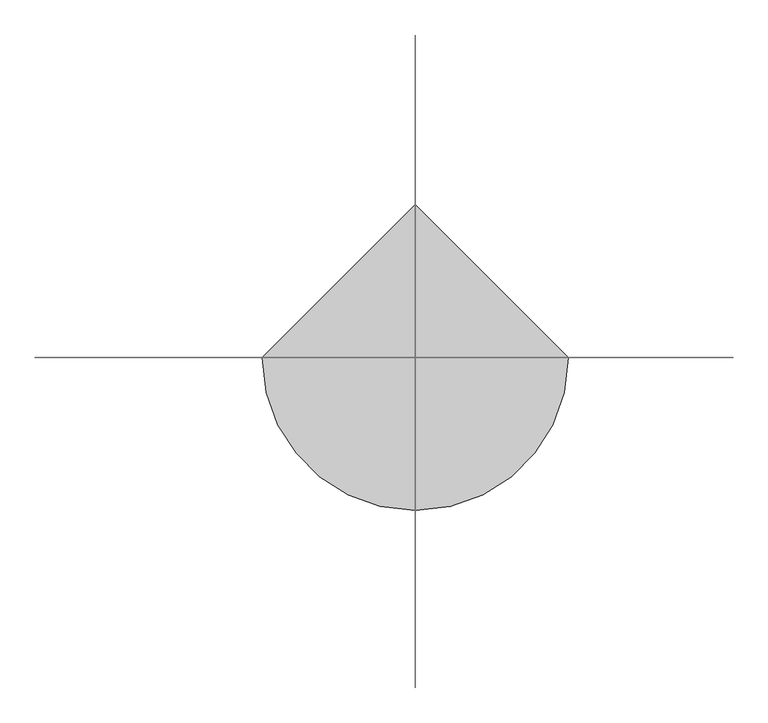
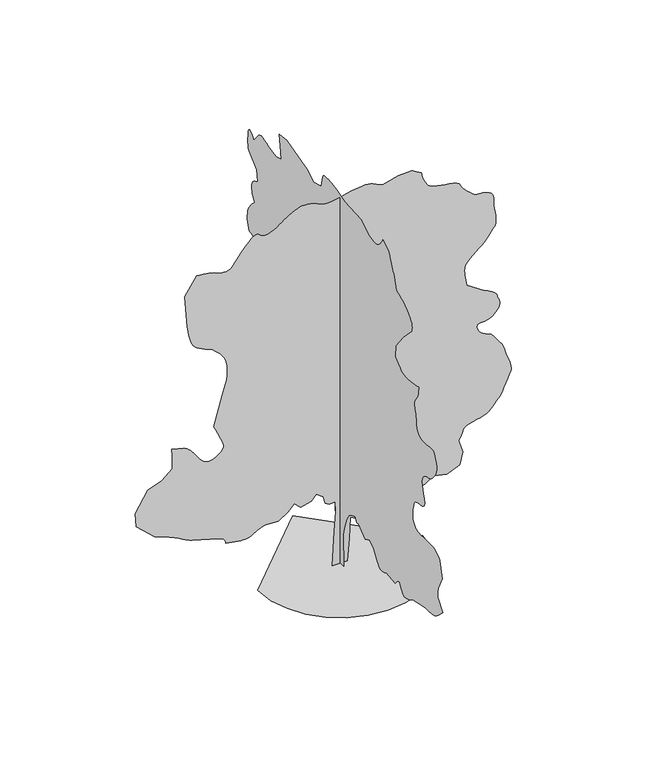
"""IFC4 building model written with IfcOpenShell, lengths in millimetres: geographic element geometry, Vegetacion PAEMFE : CEIBO."""

from ifc_helpers import new_model, si_unit, origin, place, context, project, spatial, triangles, source, transform, mapped, element, save


def geographic_element_bc3e9e51(model_context):
    return source(origin(), model_context, "Body", "Tessellation", [
        triangles([(-0.0023182, 225.0441669, 0.0117593), (-0.0023182, -207.253574, 0.0117593), (-0.0023182, -169.6619732, 1071.3576433), (-0.0023182, -244.8441393, 1390.8831253), (-0.0023182, -357.6192324, 1691.6118622), (-0.0023182, -489.1867104, 1898.3615971), (-0.0023182, -639.5510788, 1992.3405991), (-0.0023182, -827.5064667, 2067.5227833), (-0.0023182, -902.6886509, 1898.3615971), (-0.0023182, -1034.258745, 1935.9526165), (-0.0023182, -1184.6231134, 1785.5882481), (-0.0023182, -1391.3727757, 1654.0208427), (-0.0023182, -1635.71353, 1766.7940464), (-0.0023182, -1861.2600826, 1616.429678), (-0.0023182, -2011.6269218, 1353.2921059), (-0.0023182, -2048.0123463, 1301.3416431), (-0.0023182, -2085.2180695, 1251.8599251), (-0.0023182, -2124.0694771, 1207.3105368), (-0.0023182, -2165.3871586, 1170.1569906), (-0.0023182, -2209.9912674, 1142.8679586), (-0.0023182, -2258.7073345, 1127.909642), (-0.0023182, -2312.3530426, 1127.7430098), (-0.0023182, -2363.8087681, 1136.8965935), (-0.0023182, -2406.3868378, 1148.019025), (-0.0023182, -2441.5663765, 1160.7872137), (-0.0023182, -2470.8294159, 1174.8705111), (-0.0023182, -2495.6523193, 1189.9408121), (-0.0023182, -2517.5166824, 1205.6673231), (-0.0023182, -2537.8994499, 1221.7219391), (-0.0023182, -3026.5835747, 1165.3366453), (-0.0023182, -3074.7605759, 1220.9538174), (-0.0023182, -3121.9222321, 1271.9693081), (-0.0023182, -3167.1302284, 1313.7817268), (-0.0023182, -3209.3959625, 1341.7843781), (-0.0023182, -3247.7032173, 1351.3728916), (-0.0023182, -3281.0625183, 1337.9484203), (-0.0023182, -3308.5102615, 1296.9041233), (-0.0023182, -3336.0885201, 1237.8860687), (-0.0023182, -3370.228878, 1176.8965502), (-0.0023182, -3410.5935654, 1118.8679701), (-0.0023182, -3456.9215515, 1068.727426), (-0.0023182, -3508.7965828, 1031.409791), (-0.0023182, -3565.9579193, 1011.8473223), (-0.0023182, -3628.0410484, 1014.9697334), (-0.0023182, -3690.2805634, 1033.2743574), (-0.0023182, -3748.5877602, 1055.521764), (-0.0023182, -3803.6137619, 1081.0581413), (-0.0023182, -3856.0094009, 1109.2221926), (-0.0023182, -3906.426091, 1139.3627947), (-0.0023182, -3955.5143738, 1170.8158167), (-0.0023182, -4003.9518242, 1202.9277374), (-0.0023182, -4680.5913368, 1334.4952881), (-0.0023182, -4764.9922897, 1334.6593769), (-0.0023182, -4848.2215118, 1335.8103241), (-0.0023182, -4929.1590134, 1338.935424), (-0.0023182, -5006.6327728, 1345.0160122), (-0.0023182, -5079.5230911, 1355.0447605), (-0.0023182, -5146.6585281, 1370.0030045), (-0.0023182, -5206.866481, 1390.8831253), (-0.0023182, -5264.8873581, 1421.0759045), (-0.0023182, -5325.8766586, 1462.11744), (-0.0023182, -5389.3402267, 1512.2033363), (-0.0023182, -5454.7827438, 1569.5209133), (-0.0023182, -5521.6838928, 1632.26563), (-0.0023182, -5589.5745163, 1698.6249516), (-0.0023182, -5657.959877, 1766.7940464), (-0.0023182, -5394.8352402, 2067.5227833), (-0.0023182, -5386.9967651, 2123.8533566), (-0.0023182, -5380.4599548, 2179.8558975), (-0.0023182, -5376.5799591, 2235.2020832), (-0.0023182, -5376.6322815, 2289.5614105), (-0.0023182, -5381.9447479, 2342.6055565), (-0.0023182, -5393.8457657, 2394.0066341), (-0.0023182, -5413.6114197, 2443.4337044), (-0.0023182, -5620.3813568, 2875.724469), (-0.0023182, -5488.7934586, 3401.9999039), (-0.0023182, -5478.5068771, 3416.5309937), (-0.0023182, -5447.8035187, 3453.7444199), (-0.0023182, -5397.0746384, 3504.082917), (-0.0023182, -5326.6062653, 3558.0671219), (-0.0023182, -5236.7361694, 3606.1138985), (-0.0023182, -5127.8044464, 3638.718013), (-0.0023182, -5000.1221237, 3646.3483612), (-0.0023182, -4857.8566795, 3640.4368034), (-0.0023182, -4711.346727, 3638.1192123), (-0.0023182, -4570.0707573, 3638.4578545), (-0.0023182, -4443.5866173, 3640.4368034), (-0.0023182, -4341.4512817, 3643.0671661), (-0.0023182, -4273.1702751, 3645.3588867), (-0.0023182, -4248.3005722, 3646.3483612), (-0.0023182, -4233.71716, 3656.2701393), (-0.0023182, -4196.1392212, 3684.2649422), (-0.0023182, -4144.7330566, 3727.7282776), (-0.0023182, -4088.7172897, 3784.0044937), (-0.0023182, -4037.3372864, 3850.4626465), (-0.0023182, -3999.7331863, 3924.4988251), (-0.0023182, -3985.1497742, 4003.4570869), (-0.0023182, -3987.9103615, 4082.3633171), (-0.0023182, -3995.5665802, 4158.3267036), (-0.0023182, -4007.3373734, 4231.8161133), (-0.0023182, -4022.4155228, 4303.3265739), (-0.0023182, -4039.9673584, 4373.3522415), (-0.0023182, -4059.1342117, 4442.3887253), (-0.0023182, -4079.1341537, 4510.9301811), (-0.0023182, -4095.5662903, 4531.008316), (-0.0023182, -4113.9776665, 4550.5655525), (-0.0023182, -4136.347522, 4569.1333145), (-0.0023182, -4164.6286446, 4586.2427353), (-0.0023182, -4200.7744034, 4601.3467552), (-0.0023182, -4246.8160698, 4614.0291206), (-0.0023182, -4304.6805611, 4623.7166107), (-0.0023182, -4374.6544876, 4629.6278778), (-0.0023182, -4450.2272003, 4636.5289101), (-0.0023182, -4523.169841, 4652.3102142), (-0.0023182, -4585.2529701, 4684.8622971), (-0.0023182, -4628.2738907, 4742.0756653), (-0.0023182, -4643.977002, 4831.8411163), (-0.0023182, -4624.211348, 4962.0232864), (-0.0023182, -4583.7167267, 5109.2108139), (-0.0023182, -4546.5030098, 5244.236293), (-0.0023182, -4518.1698555, 5366.4497635), (-0.0023182, -4504.3157593, 5475.1477798), (-0.0023182, -4510.5136368, 5569.7309601), (-0.0023182, -4542.3364037, 5649.52202), (-0.0023182, -4605.4092979, 5713.844838), (-0.0023182, -4682.7269623, 5758.8973206), (-0.0023182, -4754.4714203, 5786.5270294), (-0.0023182, -4821.9193382, 5804.6003448), (-0.0023182, -4886.4244125, 5821.0324814), (-0.0023182, -4949.2630188, 5843.7148178), (-0.0023182, -5011.7888535, 5880.5637314), (-0.0023182, -5075.3041626, 5939.3915359), (-0.0023182, -5140.0176544, 6014.2613846), (-0.0023182, -5201.7627228, 6094.0530258), (-0.0023182, -5255.3042221, 6179.0786499), (-0.0023182, -5295.3558472, 6269.729512), (-0.0023182, -5316.6841965, 6366.2660614), (-0.0023182, -5314.0018021, 6469.0783905), (-0.0023182, -5282.0491013, 6578.4531097), (-0.0023182, -5243.4811066, 6681.9165619), (-0.0023182, -5217.3873505, 6766.2910629), (-0.0023182, -5193.2731247, 6830.9528137), (-0.0023182, -5160.6169785, 6875.2233673), (-0.0023182, -5108.8980423, 6898.4783432), (-0.0023182, -5027.5698669, 6900.0148773), (-0.0023182, -4906.1377441, 6879.1818466), (-0.0023182, -4762.0756073, 6856.1611588), (-0.0023182, -4623.6122566, 6851.5515564), (-0.0023182, -4496.2950279, 6865.3797821), (-0.0023182, -4385.7741577, 6897.5929321), (-0.0023182, -4297.6234337, 6948.2183304), (-0.0023182, -4237.3890289, 7017.280394), (-0.0023182, -4210.6964722, 7104.7279633), (-0.0023182, -4201.555751, 7198.1135422), (-0.0023182, -4190.4360809, 7285.5611115), (-0.0023182, -4177.6496521, 7368.0868881), (-0.0023182, -4163.5871384, 7446.6547668), (-0.0023182, -4148.508989, 7522.2798019), (-0.0023182, -4132.7797165, 7595.9253067), (-0.0023182, -4116.7382538, 7668.581337), (-0.0023182, -4101.1133354, 7720.976976), (-0.0023182, -4088.4571312, 7773.5290009), (-0.0023182, -4081.7121941, 7826.4199585), (-0.0023182, -4083.8475288, 7879.7789108), (-0.0023182, -4097.8318497, 7933.8151474), (-0.0023182, -4126.581839, 7988.6588928), (-0.0023182, -4173.1182426, 8044.4921127), (-0.0023182, -4222.8579391, 8113.0076981), (-0.0023182, -4260.4620392, 8198.9193146), (-0.0023182, -4287.5191086, 8292.0700241), (-0.0023182, -4305.7223579, 8382.2784714), (-0.0023182, -4316.6859329, 8459.3092346), (-0.0023182, -4322.0504311, 8513.0332809), (-0.0023182, -4323.4826111, 8533.1896088), (-0.0023182, -4295.7482574, 8526.9917313), (-0.0023182, -4221.3472755, 8511.2624588), (-0.0023182, -4113.3788658, 8490.2730423), (-0.0023182, -3985.0457108, 8468.3197311), (-0.0023182, -3849.4728813, 8449.6220352), (-0.0023182, -3719.8377708, 8438.5023651), (-0.0023182, -3609.2389984, 8439.2052292), (-0.0023182, -3515.8798714, 8455.4809799), (-0.0023182, -3428.4058502, 8486.548851), (-0.0023182, -3345.8800735, 8529.9601547), (-0.0023182, -3267.3124855, 8583.215625), (-0.0023182, -3191.6877411, 8643.8921539), (-0.0023182, -3118.0419456, 8709.465477), (-0.0023182, -3045.3856247, 8777.5380661), (-0.0023182, -3064.1876747, 9172.2511826), (-0.0023182, -3477.67668, 9698.5260361), (-0.0023182, -3947.5718353, 10187.1967896), (-0.0023182, -3954.9155731, 10247.796579), (-0.0023182, -3957.9883507, 10309.5672272), (-0.0023182, -3952.4936279, 10373.6295959), (-0.0023182, -3934.1863152, 10441.1289642), (-0.0023182, -3898.7957428, 10513.2385162), (-0.0023182, -3842.0250801, 10591.1023682), (-0.0023182, -3759.6033669, 10675.8948669), (-0.0023182, -3662.9368835, 10757.3526855), (-0.0023182, -3566.2962708, 10826.0240753), (-0.0023182, -3469.6297874, 10883.99263), (-0.0023182, -3372.9633041, 10933.4198456), (-0.0023182, -3276.2968208, 10976.4404755), (-0.0023182, -3179.6303375, 11015.1904358), (-0.0023182, -3082.9638542, 11051.7789001), (-0.0023182, -3054.7606339, 11148.1858063), (-0.0023182, -3026.3754478, 11242.9242096), (-0.0023182, -2997.651329, 11334.3825806), (-0.0023182, -2968.4327637, 11420.9191589), (-0.0023182, -2938.5889458, 11500.8666046), (-0.0023182, -2907.885878, 11572.5854828), (-0.0023182, -2876.2194969, 11634.4607758), (-0.0023182, -2841.0890831, 11701.9078217), (-0.0023182, -2802.365284, 11785.1376251), (-0.0023182, -2763.2769722, 11874.642627), (-0.0023182, -2727.1832451, 11960.8396912), (-0.0023182, -2697.313266, 12034.1991669), (-0.0023182, -2676.9749725, 12085.2146576), (-0.0023182, -2669.4748489, 12104.3553497), (-0.0023182, -2349.9468235, 12292.2985291), (-0.0023182, -2333.5613411, 12259.902832), (-0.0023182, -2315.5327904, 12226.5432404), (-0.0023182, -2294.2150509, 12191.2046997), (-0.0023182, -2267.9676704, 12152.8977356), (-0.0023182, -2235.1448193, 12110.6317108), (-0.0023182, -2194.1006676, 12063.470636), (-0.0023182, -2143.1944725, 12010.3715515), (-0.0023182, -2081.876849, 11964.3813354), (-0.0023182, -2011.681715, 11937.1678802), (-0.0023182, -1934.0880501, 11925.5278931), (-0.0023182, -1850.5751244, 11926.4127228), (-0.0023182, -1762.6248241, 11936.6737244), (-0.0023182, -1671.7161289, 11953.1576019), (-0.0023182, -1579.3281635, 11972.7668701), (-0.0023182, -1165.8262957, 12254.6938477), (-0.0023182, -263.6402122, 12311.099707), (-0.0023182, -147.0856987, 12343.1570526), (-0.0023182, -32.0108868, 12374.2249237), (-0.0023182, 80.1045582, 12403.3138458), (-0.0023182, 187.7817248, 12429.4587616), (-0.0023182, 289.5412112, 12451.6469421), (-0.0023182, 383.9030205, 12468.9121674), (-0.0023182, 469.3846487, 12480.2661255), (-0.0023182, 553.663189, 12488.9121094), (-0.0023182, 641.8895988, 12496.5941986), (-0.0023182, 728.7983202, 12499.9800385), (-0.0023182, 809.1314981, 12495.812851), (-0.0023182, 877.6262272, 12480.8137665), (-0.0023182, 929.0271595, 12451.6469421), (-0.0023182, 958.0713896, 12405.0579254), (-0.0023182, 1052.0477755, 12029.1738922), (-0.0023182, 1465.5497887, 11916.3877533), (-0.0023182, 1841.4605644, 12141.9332886), (-0.0023182, 2311.3504875, 12254.6938477), (-0.0023182, 2931.6100113, 12442.6626068), (-0.0023182, 3345.0987259, 12386.2823273), (-0.0023182, 3307.520787, 12029.1738922), (-0.0023182, 3232.3384575, 11615.6584351), (-0.0023182, 3533.0671944, 11521.6746368), (-0.0023182, 3833.7959312, 11578.0549164), (-0.0023182, 3950.0716827, 11621.7522491), (-0.0023182, 4063.222625, 11661.6219086), (-0.0023182, 4170.123658, 11693.9652832), (-0.0023182, 4267.6755524, 11714.9546997), (-0.0023182, 4352.7273376, 11720.8148071), (-0.0023182, 4422.1544952, 11707.7679291), (-0.0023182, 4472.8313438, 11672.0387146), (-0.0023182, 4754.7580307, 11333.7314575), (-0.0023182, 4818.8203995, 11408.6280487), (-0.0023182, 4880.5910477, 11473.8356964), (-0.0023182, 4937.7265137, 11519.6433655), (-0.0023182, 4987.9868179, 11536.3621124), (-0.0023182, 5029.0284988, 11514.2785767), (-0.0023182, 5058.5598358, 11443.7061401), (-0.0023182, 5074.2885269, 11314.9302795), (-0.0023182, 5079.0545151, 11171.9087769), (-0.0023182, 5077.9086548, 11061.4411011), (-0.0023182, 5071.8410019, 10978.081073), (-0.0023182, 5061.7887085, 10916.4406494), (-0.0023182, 5048.820314, 10871.0759766), (-0.0023182, 5033.846228, 10836.5455261), (-0.0023182, 5017.9088287, 10807.456604), (-0.0023182, 4585.6177734, 10450.3214264), (-0.0023182, 4548.0136734, 10055.6350525), (-0.0023182, 4608.1437241, 10031.1295715), (-0.0023182, 4666.4247597, 10004.6718842), (-0.0023182, 4721.1121193, 9974.2551361), (-0.0023182, 4770.3829491, 9937.927121), (-0.0023182, 4812.4141045, 9893.7077271), (-0.0023182, 4845.4088928, 9839.6191681), (-0.0023182, 4867.5441696, 9773.6824951), (-0.0023182, 4875.981736, 9701.2084305), (-0.0023182, 4870.6172379, 9628.708786), (-0.0023182, 4853.7421051, 9556.2085602), (-0.0023182, 4827.6486397, 9483.7089157), (-0.0023182, 4794.6538513, 9411.2086899), (-0.0023182, 4757.0756218, 9338.7090454), (-0.0023182, 4717.1800919, 9266.2094009), (-0.0023182, 4777.336013, 9205.7665787), (-0.0023182, 4836.0338837, 9145.1673706), (-0.0023182, 4891.7630402, 9084.2303925), (-0.0023182, 4943.0651413, 9022.7980957), (-0.0023182, 4988.4292328, 8960.7146759), (-0.0023182, 5026.3984268, 8897.8243286), (-0.0023182, 5055.4867676, 8833.9183456), (-0.0023182, 5076.3721207, 8771.67854), (-0.0023182, 5091.3462067, 8713.3716339), (-0.0023182, 5101.3717575, 8658.3453415), (-0.0023182, 5107.4399918, 8605.9497025), (-0.0023182, 5110.564801, 8555.5330124), (-0.0023182, 5111.7106613, 8506.4447296), (-0.0023182, 5111.892627, 8458.0075699), (-0.0023182, 4999.106488, 8138.4764923), (-0.0023182, 4946.7887512, 8130.0909576), (-0.0023182, 4894.6018204, 8119.7526352), (-0.0023182, 4842.7788208, 8105.4296722), (-0.0023182, 4791.424688, 8085.2216034), (-0.0023182, 4740.7475487, 8057.0965759), (-0.0023182, 4690.8779182, 8019.1279633), (-0.0023182, 4641.9977623, 7969.3100739), (-0.0023182, 4597.49263, 7910.1956589), (-0.0023182, 4559.9146912, 7846.1332901), (-0.0023182, 4528.0657631, 7777.9822174), (-0.0023182, 4500.8261467, 7706.5243698), (-0.0023182, 4477.0502724, 7632.5916733), (-0.0023182, 4455.5658279, 7557.0189606), (-0.0023182, 4435.253405, 7480.6393204), (-0.0023182, 4391.2430099, 7420.1964981), (-0.0023182, 4349.0554687, 7359.5978714), (-0.0023182, 4310.4618942, 7298.6603119), (-0.0023182, 4277.3107201, 7237.2280151), (-0.0023182, 4251.399511, 7175.1445953), (-0.0023182, 4234.5243782, 7112.2280869), (-0.0023182, 4228.4828865, 7048.3482651), (-0.0023182, 4247.2849365, 6540.8490097), (-0.0023182, 4291.2953316, 6536.4219543), (-0.0023182, 4333.4825821, 6529.5206314), (-0.0023182, 4372.0764473, 6517.671936), (-0.0023182, 4405.2273308, 6498.4533417), (-0.0023182, 4431.1388306, 6469.3388397), (-0.0023182, 4448.0136726, 6427.9326462), (-0.0023182, 4454.0292938, 6371.7087524), (-0.0023182, 4452.3886963, 6306.7086502), (-0.0023182, 4447.8052551, 6240.7452347), (-0.0023182, 4440.7219666, 6173.9487305), (-0.0023182, 4431.6855995, 6106.4743607), (-0.0023182, 4421.1647301, 6038.5319962), (-0.0023182, 4409.6543861, 5970.2506989), (-0.0023182, 4397.649305, 5901.8135971), (-0.0023182, 4378.8472549, 5525.9028214), (-0.0023182, 4735.9821419, 5544.7045807), (-0.0023182, 5130.6688065, 5619.8866196), (-0.0023182, 5214.6793762, 5591.4494019), (-0.0023182, 5295.2256226, 5561.5273911), (-0.0023182, 5368.8978699, 5528.6369568), (-0.0023182, 5432.178891, 5491.3194672), (-0.0023182, 5481.6578476, 5448.0901291), (-0.0023182, 5513.871579, 5397.4653122), (-0.0023182, 5525.3819229, 5337.9340622), (-0.0023182, 5522.1007278, 5262.5438965), (-0.0023182, 5512.8815231, 5167.4136566), (-0.0023182, 5498.7672684, 5055.8512802), (-0.0023182, 5480.6683731, 4931.1379623), (-0.0023182, 5459.6266342, 4796.5548981), (-0.0023182, 5436.6059464, 4655.3832825), (-0.0023182, 5412.6213638, 4510.9301811), (-0.0023182, 5243.4549454, 4059.8373665), (-0.0023182, 5151.0594223, 4008.0143669), (-0.0023182, 5060.148111, 3959.2905968), (-0.0023182, 4972.2058044, 3916.8167358), (-0.0023182, 4888.6899719, 3883.7178841), (-0.0023182, 4811.112149, 3863.1188507), (-0.0023182, 4740.9039345, 3858.1447357), (-0.0023182, 4679.5757011, 3871.8947685), (-0.0023182, 4153.3005569, 4097.4414665), (-0.0023182, 3627.0254128, 3928.2750481), (-0.0023182, 3251.114637, 3665.1504112), (-0.0023182, 2875.2038612, 3101.271167), (-0.0023182, 2838.8235237, 3045.2295296), (-0.0023182, 2801.6362587, 2991.1409706), (-0.0023182, 2762.7819443, 2940.9850204), (-0.0023182, 2721.4539436, 2896.7662079), (-0.0023182, 2676.8447479, 2860.4381927), (-0.0023182, 2628.1468483, 2833.979924), (-0.0023182, 2574.488205, 2819.3444801), (-0.0023182, 2520.9490311, 2814.4747192), (-0.0023182, 2470.7018074, 2814.8392319), (-0.0023182, 2420.12379, 2818.8497429), (-0.0023182, 2365.6003738, 2824.8133324), (-0.0023182, 2303.5144833, 2831.1152733), (-0.0023182, 2230.2490425, 2836.1152588), (-0.0023182, 2142.1893013, 2838.1465302), (-0.0023182, 2047.7180328, 2831.0112099), (-0.0023182, 1957.1921631, 2811.0632996), (-0.0023182, 1869.9553368, 2780.438134), (-0.0023182, 1785.3487278, 2741.2457588), (-0.0023182, 1702.7133648, 2695.6726685), (-0.0023182, 1621.3931831, 2645.803038), (-0.0023182, 1540.7319729, 2593.7980728), (-0.0023182, 1427.9586239, 2274.2723728), (-0.0023182, 1108.435758, 1917.1584148), (-0.0023182, 1064.323843, 1869.3745583), (-0.0023182, 1013.3056635, 1822.5778507), (-0.0023182, 956.5349281, 1776.6012966), (-0.0023182, 895.1626568, 1731.2837139), (-0.0023182, 830.3371805, 1686.4608685), (-0.0023182, 763.2097372, 1641.9635845), (-0.0023182, 694.9338175, 1597.6328602), (-0.0023182, 582.1605412, 1992.3405991), (-0.0023182, 394.2025008, 2255.4781712), (-0.0023182, 319.0229327, 2086.3169849), (-0.0023182, 262.6350047, 1823.1794128), (-0.0023182, 243.8399673, 1353.2921059), (-0.0023182, 206.2483665, 695.4467949), (232.8879105, 0.0005961, 0.0297656), (-255.795433, 0.0005961, 0.0297656), (-180.61403, 0.000529, 1127.7612499), (-143.0226836, 0.0004895, 1785.6065609), (-161.8182296, 0.0004694, 2123.9263172), (-349.7754888, 0.0004705, 2105.1321156), (-481.3429667, 0.0004662, 2180.3141544), (-537.7282969, 0.0004515, 2424.6549088), (-763.277393, 0.0004425, 2575.0192772), (-913.6417614, 0.0004525, 2405.858091), (-1251.9589016, 0.0004583, 2311.8817051), (-1458.7112526, 0.0004471, 2499.8372383), (-1665.4608421, 0.0004593, 2293.0848873), (-1966.189579, 0.0004705, 2105.1321156), (-2417.2851551, 0.0004694, 2123.9263172), (-2642.8343239, 0.0004751, 2029.9473152), (-2691.2717743, 0.0004773, 1993.9473324), (-2740.3600571, 0.0004794, 1959.4240036), (-2790.7767471, 0.0004812, 1927.8615406), (-2843.1726768, 0.0004827, 1900.7365974), (-2898.1983879, 0.0004841, 1879.5309151), (-2956.4797142, 0.0004848, 1865.7210022), (-3018.7450996, 0.0004852, 1860.7887451), (-3088.1199348, 0.0004852, 1862.9813438), (-3166.375042, 0.0004848, 1869.1168705), (-3252.0259186, 0.0004841, 1878.5439114), (-3343.588353, 0.0004834, 1890.5985535), (-3439.5778427, 0.0004827, 1904.627203), (-3538.5619171, 0.0004816, 1919.9708885), (-3639.0046234, 0.0004809, 1935.9709293), (-3643.6400963, 0.0004784, 1976.1375183), (-3652.1035332, 0.0004759, 2015.6452812), (-3668.0929642, 0.0004737, 2053.8404789), (-3695.4369347, 0.0004715, 2090.0618145), (-3737.9107956, 0.0004694, 2123.6527874), (-3799.2648994, 0.0004676, 2153.9548622), (-3883.3272102, 0.0004662, 2180.3141544), (-4710.3310913, 0.0004515, 2424.6549088), (-4777.8569115, 0.0004504, 2446.0820892), (-4849.9661728, 0.0004486, 2476.3840187), (-4924.366864, 0.0004464, 2512.933532), (-4998.7942978, 0.0004439, 2553.0999756), (-5070.9032684, 0.0004414, 2594.2535683), (-5138.4293793, 0.0004392, 2633.7717957), (-5199.028006, 0.0004371, 2669.0062729), (-5264.184494, 0.0004349, 2702.8603111), (-5345.1214142, 0.0004328, 2739.6830635), (-5439.2098572, 0.0004303, 2778.9797928), (-5543.8191696, 0.0004281, 2820.2298912), (-5656.3192795, 0.0004256, 2862.9900719), (-5774.0795334, 0.0004227, 2906.7141472), (-5894.4698593, 0.0004202, 2950.9326691), (-6477.1249924, 0.0003876, 3496.010154), (-6514.7029312, 0.0003607, 3947.1029686), (-6120.015976, 0.0003226, 4586.1383812), (-5668.9231613, 0.0003126, 4755.3047997), (-5330.5903244, 0.0002957, 5037.2314865), (-5330.5903244, 0.0002702, 5469.5225418), (-5349.3926651, 0.0002566, 5695.0692398), (-4954.6795486, 0.0002623, 5601.1110214), (-4910.2526093, 0.0002641, 5572.4389343), (-4864.9661293, 0.0002659, 5540.9809708), (-4818.065213, 0.0002681, 5503.9495102), (-4768.6903198, 0.0002706, 5458.5069351), (-4716.0342316, 0.0002742, 5401.9185287), (-4659.2632782, 0.0002785, 5331.3455109), (-4597.5708229, 0.0002835, 5243.9758438), (-4535.0446976, 0.0002889, 5152.2052826), (-4474.8105835, 0.0002939, 5071.2677811), (-4414.6023399, 0.0002979, 5002.8306793), (-4352.0765053, 0.0003011, 4948.5078323), (-4284.9410683, 0.0003036, 4909.99216), (-4210.904599, 0.0003047, 4888.8986801), (-4127.6756676, 0.0003047, 4886.8674088), (-4036.6602928, 0.0003036, 4907.7004395), (-3944.993795, 0.0003011, 4949.8879807), (-3858.9002129, 0.0002975, 5007.2054123), (-3784.6553261, 0.0002936, 5073.4031158), (-3728.4837547, 0.0002896, 5142.2314728), (-3696.6348267, 0.0002857, 5207.4397018), (-3695.3846123, 0.0002824, 5262.7781845), (-3717.5201797, 0.0002788, 5322.6216248), (-3750.5149681, 0.0002742, 5403.1684525), (-3792.5461235, 0.0002681, 5500.9805054), (-3841.7907921, 0.0002616, 5612.6213654), (-3896.4781517, 0.0002544, 5734.5999664), (-3954.7853485, 0.0002465, 5863.4804718), (-4014.9153992, 0.0002386, 5995.7979767), (-3751.7648918, 0.0001816, 6954.3900467), (-3715.7752281, 0.0001751, 7062.8793549), (-3681.2441963, 0.0001687, 7169.9106125), (-3649.681588, 0.0001626, 7273.9728653), (-3622.5463257, 0.0001565, 7373.5819016), (-3601.3484917, 0.0001511, 7467.2796707), (-3587.5464272, 0.0001457, 7553.5813797), (-3582.5984734, 0.0001414, 7631.0295593), (-3583.8745583, 0.0001367, 7706.5761108), (-3588.0931961, 0.0001321, 7786.7584259), (-3595.9316711, 0.000127, 7869.2324615), (-3608.0411064, 0.000122, 7951.7059158), (-3625.0723343, 0.0001173, 8031.8620697), (-3647.702639, 0.0001127, 8107.4347824), (-3676.5825623, 0.0001087, 8176.0805923), (-3713.7439568, 0.0001048, 8239.9865753), (-3759.7597527, 0.0001012, 8302.9036652), (-3813.1968979, 9.76e-05, 8364.9865036), (-3872.5458916, 9.37e-05, 8426.4188004), (-3936.3219406, 9.01e-05, 8487.3301987), (-4003.0664131, 8.65e-05, 8547.9549866), (-4071.2956787, 8.29e-05, 8608.3978088), (-4179.5765694, 8.04e-05, 8652.7724258), (-4285.0451317, 7.75e-05, 8697.6423615), (-4384.9407784, 7.5e-05, 8743.5279327), (-4476.4773422, 7.21e-05, 8790.8715546), (-4556.7895912, 6.93e-05, 8840.1941254), (-4623.1695511, 6.6e-05, 8891.9648026), (-4672.7528618, 6.28e-05, 8946.7044846), (-4711.7632713, 5.85e-05, 9019.6988663), (-4747.8308372, 5.28e-05, 9118.6573608), (-4780.2526955, 4.59e-05, 9232.7457458), (-4808.4297546, 3.88e-05, 9351.1048004), (-4831.65886, 3.19e-05, 9462.9014648), (-4849.3150497, 2.66e-05, 9557.2503571), (-4860.6954597, 2.26e-05, 9623.3439972), (-4935.8777893, -4.02e-05, 10675.8948669), (-4559.9667229, -7.5e-05, 11258.55), (-4459.5240166, -7.43e-05, 11246.3356293), (-4360.5658127, -7.36e-05, 11233.2887512), (-4264.5504524, -7.25e-05, 11218.6012756), (-4172.988018, -7.14e-05, 11201.466275), (-4087.3371414, -7.03e-05, 11181.0233368), (-4009.1081955, -6.89e-05, 11156.4666962), (-3939.7333603, -6.71e-05, 11126.9871002), (-3869.1865036, -6.53e-05, 11098.4981415), (-3789.7855362, -6.42e-05, 11078.5505219), (-3706.4525414, -6.35e-05, 11068.7848389), (-3624.0828598, -6.39e-05, 11070.8672699), (-3547.6506065, -6.46e-05, 11086.4407379), (-3482.0517036, -6.64e-05, 11117.1179352), (-3432.2341049, -6.93e-05, 11164.5917816), (-3131.505368, -9.29e-05, 11559.2781555), (-3051.193119, -9.83e-05, 11651.2318451), (-2972.1566643, -0.0001037, 11739.0695068), (-2895.7767334, -0.0001084, 11818.7053436), (-2823.32883, -0.0001123, 11885.9965851), (-2756.1413612, -0.0001156, 11936.8562714), (-2695.5424438, -0.0001173, 11967.1427948), (-2642.8343239, -0.0001177, 11972.7936127), (-2600.4177269, -0.0001166, 11958.6526154), (-2565.8942528, -0.0001152, 11935.6319275), (-2533.3447861, -0.0001138, 11908.6789215), (-2496.8502113, -0.0001123, 11882.71539), (-2450.4908318, -0.0001109, 11862.6375458), (-2388.3529095, -0.0001105, 11853.4450836), (-2304.5119514, -0.0001109, 11860.0074738), (-2204.3401588, -0.0001127, 11888.523175), (-2101.5409103, -0.0001152, 11936.0749237), (-2002.6842991, -0.0001188, 11994.173703), (-1914.3511734, -0.0001224, 12054.2258514), (-1843.1142426, -0.0001256, 12107.714447), (-1795.5518841, -0.0001278, 12146.0481537), (-1778.2341911, -0.0001288, 12160.7356293), (-1757.0285088, -0.0001296, 12174.3289856), (-1700.6405262, -0.0001317, 12209.6163666), (-1619.9245228, -0.0001346, 12258.3912964), (-1525.7267841, -0.0001378, 12312.4286957), (-1428.9012989, -0.0001407, 12363.4953461), (-1340.2947887, -0.0001432, 12403.391748), (-1270.7557194, -0.0001443, 12423.8858459), (-1204.7792959, -0.0001446, 12428.4437073), (-1122.693536, -0.0001446, 12425.735733), (-1029.0999029, -0.0001439, 12415.501474), (-928.600078, -0.0001428, 12397.3502563), (-825.8007568, -0.0001414, 12370.996051), (-725.3009319, -0.0001392, 12336.1005066), (-631.7072989, -0.0001367, 12292.3241089), (-532.1397572, -0.0001346, 12256.5948944), (-412.8456943, -0.0001339, 12243.5480164), (-277.1115375, -0.0001339, 12249.4069611), (-128.2274021, -0.0001353, 12270.3975403), (30.5207842, -0.0001371, 12302.7141724), (195.8447319, -0.0001396, 12342.6105743), (364.4577321, -0.0001421, 12386.2823273), (480.845577, -0.0001432, 12402.0639221), (594.7698732, -0.0001439, 12415.8921478), (703.7619123, -0.0001446, 12425.735733), (805.3581093, -0.0001446, 12429.693631), (897.0871033, -0.0001446, 12425.735733), (976.4906141, -0.0001435, 12411.9330872), (1041.0972811, -0.0001421, 12386.2823273), (1095.2899035, -0.0001403, 12356.2562531), (1145.5398159, -0.0001389, 12330.1880768), (1192.5006849, -0.0001374, 12307.3766785), (1236.8339527, -0.0001364, 12287.2197693), (1279.1906696, -0.0001353, 12269.017392), (1320.2348213, -0.0001342, 12252.1416779), (1360.6201469, -0.0001331, 12235.9182495), (1849.3042717, -0.000141, 12367.5067291), (2281.6031754, -0.0001421, 12386.2823273), (2582.3319122, -0.0001321, 12217.1414886), (2586.6598457, -0.0001296, 12172.6372284), (2592.7978432, -0.0001267, 12126.9853638), (2602.5504456, -0.0001238, 12079.0429413), (2617.7300423, -0.0001209, 12027.6367767), (2640.1519295, -0.0001173, 11971.647171), (2671.5843132, -0.0001138, 11909.8765228), (2713.9017883, -0.0001098, 11841.2307129), (2756.4279716, -0.0001059, 11778.3671082), (2791.7141899, -0.0001034, 11731.9606384), (2826.3495758, -0.0001012, 11697.716217), (2866.8965195, -9.94e-05, 11671.3620117), (2919.9432816, -9.83e-05, 11648.6006104), (2992.0525429, -9.69e-05, 11625.2159912), (3089.8128548, -9.51e-05, 11596.8828369), (3210.3072441, -9.37e-05, 11569.5903168), (3340.3333191, -9.22e-05, 11548.888092), (3471.036097, -9.12e-05, 11529.7997223), (3593.5100166, -8.97e-05, 11507.4557373), (3698.8742249, -8.79e-05, 11476.8831848), (3778.2751923, -8.54e-05, 11433.1323669), (3822.8323563, -8.18e-05, 11371.3361389), (3855.7751129, -7.75e-05, 11299.3823914), (3904.4988831, -7.32e-05, 11228.419281), (3966.3477242, -6.89e-05, 11158.2898407), (4038.7435959, -6.5e-05, 11088.7847809), (4119.0299744, -6.06e-05, 11019.8006195), (4204.5506264, -5.67e-05, 10951.1548096), (4292.7275116, -5.24e-05, 10882.6392242), (4416.7376747, -5.17e-05, 10869.9306976), (4535.6437889, -5.1e-05, 10853.4456573), (4644.3676758, -4.95e-05, 10829.3831726), (4737.7788345, -4.74e-05, 10793.9934723), (4810.8255386, -4.41e-05, 10743.4721375), (4858.4037392, -4.02e-05, 10674.0449799), (4875.3829353, -3.48e-05, 10581.909906), (4876.4764732, -2.91e-05, 10485.9727386), (4879.5492508, -2.4e-05, 10405.7904236), (4884.2629166, -2.01e-05, 10338.7852112), (4890.3044083, -1.69e-05, 10282.3014496), (4897.3097946, -1.4e-05, 10233.6811615), (4904.966304, -1.11e-05, 10190.34776), (4912.9867447, -9e-06, 10149.6188507), (4928.7160172, -3.2e-06, 10053.2910095), (4942.1274078, 2.5e-06, 9958.9165375), (4950.9553574, 7.9e-06, 9868.4999634), (4952.8825653, 1.29e-05, 9784.0202362), (4945.5911499, 1.76e-05, 9707.406308), (4926.7888092, 2.15e-05, 9640.6615448), (4894.1849854, 2.48e-05, 9585.7660583), (4852.5965355, 2.8e-05, 9533.1099701), (4807.7007294, 3.16e-05, 9472.8752747), (4758.5601242, 3.55e-05, 9406.7298935), (4704.1332138, 3.95e-05, 9336.3132614), (4643.4822647, 4.38e-05, 9263.2665573), (4575.5916412, 4.84e-05, 9189.2303787), (4499.4718689, 5.28e-05, 9115.870903), (4411.0865662, 5.74e-05, 9040.1941269), (4312.5190361, 6.21e-05, 8959.2566254), (4211.9463959, 6.71e-05, 8874.6995773), (4117.6495354, 7.21e-05, 8788.1891602), (4037.8061531, 7.75e-05, 8701.3142303), (3980.6448166, 8.25e-05, 8615.7932877), (3954.3946747, 8.76e-05, 8533.21577), (3950.1760368, 9.22e-05, 8451.5492432), (3952.8843018, 9.73e-05, 8367.9293472), (3961.3218681, 0.0001023, 8282.6688538), (3974.342585, 0.0001077, 8196.0805344), (3990.8529144, 0.0001127, 8108.5289017), (4009.6290939, 0.0001181, 8020.2994034), (4029.5770042, 0.0001234, 7931.7582962), (4593.4562485, 0.0001457, 7555.8475204), (4615.3052055, 0.0001464, 7546.0818375), (4671.7113556, 0.0001479, 7519.2328949), (4748.7944412, 0.0001504, 7478.8940781), (4832.8047203, 0.0001532, 7428.7122574), (4909.9142578, 0.0001568, 7372.2540756), (4966.293956, 0.0001601, 7313.1914017), (4988.1693649, 0.0001636, 7255.1187836), (4999.8878357, 0.0001669, 7200.248877), (5026.7367783, 0.0001701, 7145.4051315), (5056.2157928, 0.0001737, 7085.9523651), (5075.825061, 0.000178, 7017.280394), (5073.0909256, 0.0001827, 6934.8063583), (5035.5129868, 0.0001888, 6833.9473984), (4950.5652649, 0.0001963, 6710.0415894), (4833.4038116, 0.0002024, 6604.5986069), (4712.9611633, 0.0002056, 6550.1455353), (4597.4664688, 0.0002071, 6528.5573181), (4495.0968452, 0.0002074, 6521.76064), (4414.1076027, 0.0002081, 6511.6821854), (4362.7014381, 0.0002099, 6480.2242218), (4349.1075005, 0.0002142, 6409.3128525), (4368.6650276, 0.0002193, 6320.8752274), (4408.9512314, 0.0002236, 6247.2297226), (4466.4773712, 0.0002275, 6185.9014893), (4537.8311554, 0.0002304, 6134.4435837), (4619.5500046, 0.0002329, 6090.3811569), (4708.1434341, 0.0002354, 6051.2661026), (4800.2006058, 0.0002376, 6014.599736), (4892.205455, 0.0002444, 5898.2196304), (4980.4349533, 0.0002512, 5784.2876312), (5061.0858444, 0.0002577, 5675.3035858), (5130.4083572, 0.0002638, 5573.7150192), (5184.6009796, 0.0002695, 5481.9706192), (5219.8871979, 0.0002742, 5402.5696518), (5232.4916611, 0.0002778, 5337.9602234), (5247.8564209, 0.0002824, 5260.6945908), (5286.2157074, 0.0002892, 5150.2263336), (5336.0591766, 0.0002968, 5019.3668793), (5385.9288071, 0.000305, 4880.9555603), (5424.2880936, 0.0003129, 4747.8049667), (5439.6266922, 0.0003201, 4632.7271072), (5420.4598389, 0.0003251, 4548.5604424), (5375.9026749, 0.0003298, 4465.4355743), (5324.1319977, 0.0003366, 4353.0398186), (5267.0750153, 0.0003445, 4223.5349327), (5206.7362564, 0.0003524, 4089.1341248), (5145.0958328, 0.0003599, 3961.94683), (5084.1065323, 0.0003664, 3854.1603859), (5025.7473038, 0.0003711, 3777.9365501), (4969.1588974, 0.0003747, 3717.5460503), (4911.2159225, 0.0003786, 3651.5826347), (4850.6693275, 0.0003825, 3583.614109), (4786.1901237, 0.0003865, 3517.3120514), (4716.4246147, 0.0003901, 3456.2704285), (4640.0967155, 0.0003933, 3404.1090775), (4555.8521484, 0.0003955, 3364.4216743), (4456.2948532, 0.0003973, 3334.9946915), (4341.6076675, 0.0003991, 3308.5364227), (4221.9725281, 0.0004005, 3281.0883888), (4107.6236938, 0.0004023, 3248.6926918), (4008.7175217, 0.0004048, 3207.4428841), (3935.4365295, 0.000408, 3153.3543251), (3898.0146858, 0.0004123, 3082.4949875), (3877.9624214, 0.0004166, 3011.4795547), (3852.650013, 0.0004199, 2956.2451355), (3826.0094879, 0.0004224, 2911.8702278), (3802.0251961, 0.0004249, 2873.3807167), (3784.5771332, 0.000427, 2835.9068413), (3777.6763916, 0.0004296, 2794.4747772), (3785.2544174, 0.0004324, 2744.1883118), (3898.0146858, 0.000454, 2387.0638893), (3804.0303062, 0.0004784, 1973.5619488), (3390.5415916, 0.0004884, 1804.4033787), (2977.0264252, 0.000483, 1898.3797646), (2563.5350945, 0.0004985, 1635.2421925), (2262.8062122, 0.0004884, 1804.4033787), (1830.5074539, 0.0004773, 1992.3561504), (1802.1793865, 0.0004784, 1975.8639885), (1773.0257881, 0.0004794, 1957.0671707), (1742.2289761, 0.0004809, 1933.6687443), (1708.9686516, 0.0004827, 1903.3668148), (1672.4166676, 0.0004848, 1863.8564358), (1631.7578121, 0.0004881, 1812.8407997), (1586.1666996, 0.000492, 1748.0153961), (1538.3829884, 0.000496, 1679.9009491), (1491.5861355, 0.0004995, 1619.6797703), (1445.6123428, 0.0005028, 1566.0339169), (1400.2946148, 0.0005056, 1517.6460274), (1355.4691532, 0.0005082, 1473.2060074), (1310.9744854, 0.0005107, 1431.3962048), (1266.6437611, 0.0005132, 1390.9014381), (1323.0291275, 0.0005369, 996.1936993), (1290.6437496, 0.0005376, 984.303146), (1257.271368, 0.0005379, 973.5609238), (1221.9277405, 0.0005387, 965.1234301), (1183.6257179, 0.000539, 960.1364525), (1141.3757532, 0.000539, 959.7536997), (1094.1935314, 0.0005387, 965.1234301), (1041.0972811, 0.0005379, 977.3968815), (985.8057432, 0.0005365, 997.8916334), (932.4880674, 0.0005351, 1026.2770374), (880.813678, 0.0005329, 1061.2379122), (830.4543972, 0.0005304, 1101.459149), (781.0820475, 0.0005279, 1145.6257845), (732.3685965, 0.000525, 1192.4225647), (683.980707, 0.0005221, 1240.5344536), (326.8640602, 0.000511, 1428.4924576), (289.2755842, 0.0005523, 733.0561272), (-2620.2301804, 0.0, 0.0), (-2550.9620247, -600.3844651, 0.0), (-2353.6811886, -1151.7403095, 0.0), (-2044.1842369, -1638.2734028, 0.0), (-1638.2734028, -2044.1842369, 0.0), (-1151.7403095, -2353.6785725, 0.0), (-600.3844651, -2550.9620247, 0.0), (0.0001145, -2620.2301804, 0.0), (600.3844651, -2550.9620247, 0.0), (1151.7403095, -2353.6811886, 0.0), (1638.2734028, -2044.1842369, 0.0), (2044.1842369, -1638.2734028, 0.0), (2353.6811886, -1151.7403095, 0.0), (2550.9620247, -600.3844651, 0.0), (2620.2301804, 0.000229, 0.0), (-0.0003436, 2620.2301804, 0.0)], [[407, 408, 409], [173, 174, 175], [406, 407, 409], [219, 220, 221], [1, 2, 3], [414, 1, 3], [413, 414, 3], [413, 3, 4], [412, 413, 4], [412, 4, 5], [255, 256, 257], [219, 221, 222], [65, 66, 67], [405, 406, 409], [8, 9, 10], [219, 222, 223], [404, 405, 409], [64, 65, 67], [412, 5, 6], [411, 412, 6], [403, 404, 409], [219, 223, 224], [172, 173, 175], [172, 175, 176], [171, 172, 176], [171, 176, 177], [170, 171, 177], [254, 255, 257], [254, 257, 258], [402, 403, 409], [63, 64, 67], [218, 219, 224], [401, 402, 409], [218, 224, 225], [217, 218, 225], [312, 313, 314], [216, 217, 225], [216, 225, 226], [170, 177, 178], [169, 170, 178], [168, 169, 178], [167, 168, 178], [167, 178, 179], [166, 167, 179], [166, 179, 180], [165, 166, 180], [11, 12, 13], [216, 226, 227], [215, 216, 227], [400, 401, 409], [400, 409, 410], [399, 400, 410], [29, 30, 31], [62, 63, 67], [214, 215, 227], [214, 227, 228], [410, 411, 6], [410, 6, 7], [165, 180, 181], [164, 165, 181], [312, 314, 315], [61, 62, 67], [213, 214, 228], [60, 61, 67], [59, 60, 67], [58, 59, 67], [57, 58, 67], [56, 57, 67], [55, 56, 67], [54, 55, 67], [53, 54, 67], [52, 53, 67], [52, 67, 68], [52, 68, 69], [253, 254, 258], [252, 253, 258], [29, 31, 32], [271, 272, 273], [271, 273, 274], [270, 271, 274], [270, 274, 275], [269, 270, 275], [268, 269, 275], [268, 275, 276], [268, 276, 277], [268, 277, 278], [268, 278, 279], [268, 279, 280], [268, 280, 281], [268, 281, 282], [268, 282, 283], [267, 268, 283], [266, 267, 283], [265, 266, 283], [264, 265, 283], [263, 264, 283], [262, 263, 283], [261, 262, 283], [260, 261, 283], [259, 260, 283], [259, 283, 284], [52, 69, 70], [212, 213, 228], [212, 228, 229], [211, 212, 229], [210, 211, 229], [209, 210, 229], [208, 209, 229], [10, 11, 13], [163, 164, 181], [163, 181, 182], [312, 315, 316], [51, 52, 70], [51, 70, 71], [51, 71, 72], [207, 208, 229], [207, 229, 230], [206, 207, 230], [366, 367, 368], [74, 75, 76], [74, 76, 77], [74, 77, 78], [74, 78, 79], [74, 79, 80], [74, 80, 81], [74, 81, 82], [74, 82, 83], [74, 83, 84], [74, 84, 85], [74, 85, 86], [73, 74, 86], [73, 86, 87], [73, 87, 88], [72, 73, 88], [51, 72, 88], [51, 88, 89], [51, 89, 90], [51, 90, 91], [51, 91, 92], [51, 92, 93], [50, 51, 93], [49, 50, 93], [48, 49, 93], [47, 48, 93], [46, 47, 93], [45, 46, 93], [44, 45, 93], [43, 44, 93], [42, 43, 93], [41, 42, 93], [40, 41, 93], [39, 40, 93], [38, 39, 93], [37, 38, 93], [36, 37, 93], [35, 36, 93], [35, 93, 94], [34, 35, 94], [34, 94, 95], [34, 95, 96], [33, 34, 96], [205, 206, 230], [258, 259, 284], [252, 258, 284], [29, 32, 33], [29, 33, 96], [29, 96, 97], [311, 312, 316], [190, 191, 192], [190, 192, 193], [190, 193, 194], [190, 194, 195], [190, 195, 196], [190, 196, 197], [190, 197, 198], [190, 198, 199], [190, 199, 200], [190, 200, 201], [190, 201, 202], [190, 202, 203], [190, 203, 204], [190, 204, 205], [189, 190, 205], [189, 205, 230], [189, 230, 231], [189, 231, 232], [189, 232, 233], [189, 233, 234], [410, 7, 8], [310, 311, 316], [310, 316, 317], [309, 310, 317], [308, 309, 317], [307, 308, 317], [306, 307, 317], [305, 306, 317], [304, 305, 317], [303, 304, 317], [302, 303, 317], [302, 317, 318], [301, 302, 318], [300, 301, 318], [299, 300, 318], [299, 318, 319], [298, 299, 319], [298, 319, 320], [162, 163, 182], [366, 368, 369], [298, 320, 321], [366, 369, 370], [366, 370, 371], [366, 371, 372], [366, 372, 373], [366, 373, 374], [366, 374, 375], [365, 366, 375], [364, 365, 375], [363, 364, 375], [362, 363, 375], [361, 362, 375], [360, 361, 375], [359, 360, 375], [358, 359, 375], [357, 358, 375], [356, 357, 375], [355, 356, 375], [354, 355, 375], [353, 354, 375], [352, 353, 375], [351, 352, 375], [350, 351, 375], [350, 375, 376], [234, 235, 236], [189, 234, 236], [188, 189, 236], [188, 236, 237], [188, 237, 238], [188, 238, 239], [188, 239, 240], [188, 240, 241], [188, 241, 242], [188, 242, 243], [188, 243, 244], [188, 244, 245], [188, 245, 246], [188, 246, 247], [188, 247, 248], [188, 248, 249], [188, 249, 250], [188, 250, 251], [188, 251, 252], [188, 252, 284], [187, 188, 284], [187, 284, 285], [187, 285, 286], [187, 286, 287], [187, 287, 288], [187, 288, 289], [187, 289, 290], [187, 290, 291], [187, 291, 292], [187, 292, 293], [187, 293, 294], [187, 294, 295], [187, 295, 296], [187, 296, 297], [187, 297, 298], [187, 298, 321], [187, 321, 322], [187, 322, 323], [187, 323, 324], [187, 324, 325], [187, 325, 326], [187, 326, 327], [187, 327, 328], [187, 328, 329], [187, 329, 330], [187, 330, 331], [187, 331, 332], [187, 332, 333], [187, 333, 334], [187, 334, 335], [186, 187, 335], [185, 186, 335], [184, 185, 335], [183, 184, 335], [182, 183, 335], [162, 182, 335], [161, 162, 335], [160, 161, 335], [159, 160, 335], [158, 159, 335], [157, 158, 335], [156, 157, 335], [155, 156, 335], [154, 155, 335], [153, 154, 335], [152, 153, 335], [151, 152, 335], [150, 151, 335], [350, 376, 377], [142, 143, 144], [142, 144, 145], [141, 142, 145], [141, 145, 146], [140, 141, 146], [140, 146, 147], [139, 140, 147], [138, 139, 147], [137, 138, 147], [136, 137, 147], [135, 136, 147], [134, 135, 147], [133, 134, 147], [133, 147, 148], [132, 133, 148], [131, 132, 148], [130, 131, 148], [129, 130, 148], [128, 129, 148], [127, 128, 148], [127, 148, 149], [126, 127, 149], [125, 126, 149], [125, 149, 150], [125, 150, 335], [124, 125, 335], [123, 124, 335], [122, 123, 335], [121, 122, 335], [120, 121, 335], [119, 120, 335], [118, 119, 335], [117, 118, 335], [116, 117, 335], [115, 116, 335], [114, 115, 335], [113, 114, 335], [112, 113, 335], [111, 112, 335], [110, 111, 335], [109, 110, 335], [108, 109, 335], [107, 108, 335], [106, 107, 335], [105, 106, 335], [104, 105, 335], [103, 104, 335], [102, 103, 335], [101, 102, 335], [100, 101, 335], [99, 100, 335], [98, 99, 335], [97, 98, 335], [29, 97, 335], [28, 29, 335], [27, 28, 335], [26, 27, 335], [25, 26, 335], [25, 335, 336], [25, 336, 337], [25, 337, 338], [349, 350, 377], [339, 340, 341], [338, 339, 341], [338, 341, 342], [338, 342, 343], [338, 343, 344], [338, 344, 345], [338, 345, 346], [348, 349, 377], [347, 348, 377], [346, 347, 377], [338, 346, 377], [20, 21, 22], [19, 20, 22], [19, 22, 23], [18, 19, 23], [17, 18, 23], [17, 23, 24], [17, 24, 25], [16, 17, 25], [15, 16, 25], [14, 15, 25], [14, 25, 338], [13, 14, 338], [10, 13, 338], [8, 10, 338], [8, 338, 377], [410, 8, 377], [398, 399, 410], [398, 410, 377], [397, 398, 377], [396, 397, 377], [395, 396, 377], [394, 395, 377], [393, 394, 377], [393, 377, 378], [392, 393, 378], [391, 392, 378], [390, 391, 378], [389, 390, 378], [389, 378, 379], [389, 379, 380], [388, 389, 380], [388, 380, 381], [387, 388, 381], [387, 381, 382], [386, 387, 382], [386, 382, 383], [385, 386, 383], [384, 385, 383], [472, 473, 474], [415, 416, 417], [793, 415, 417], [792, 793, 417], [792, 417, 418], [776, 777, 778], [776, 778, 779], [776, 779, 780], [776, 780, 781], [776, 781, 782], [776, 782, 783], [776, 783, 784], [776, 784, 785], [776, 785, 786], [776, 786, 787], [776, 787, 788], [776, 788, 789], [443, 444, 445], [471, 472, 474], [471, 474, 475], [471, 475, 476], [471, 476, 477], [471, 477, 478], [471, 478, 479], [471, 479, 480], [471, 480, 481], [471, 481, 482], [776, 789, 790], [776, 790, 791], [539, 540, 541], [759, 760, 761], [471, 482, 483], [424, 425, 426], [423, 424, 426], [539, 541, 542], [613, 614, 615], [756, 757, 758], [756, 758, 759], [755, 756, 759], [539, 542, 543], [538, 539, 543], [538, 543, 544], [538, 544, 545], [538, 545, 546], [538, 546, 547], [538, 547, 548], [538, 548, 549], [538, 549, 550], [754, 755, 759], [471, 483, 484], [538, 550, 551], [537, 538, 551], [443, 445, 446], [792, 418, 419], [536, 537, 551], [535, 536, 551], [534, 535, 551], [533, 534, 551], [532, 533, 551], [531, 532, 551], [530, 531, 551], [529, 530, 551], [528, 529, 551], [527, 528, 551], [526, 527, 551], [525, 526, 551], [524, 525, 551], [524, 551, 552], [523, 524, 552], [522, 523, 552], [522, 552, 553], [521, 522, 553], [520, 521, 553], [519, 520, 553], [613, 615, 616], [420, 421, 422], [419, 420, 422], [612, 613, 616], [612, 616, 617], [612, 617, 618], [612, 618, 619], [776, 791, 792], [776, 792, 419], [775, 776, 419], [774, 775, 419], [773, 774, 419], [772, 773, 419], [771, 772, 419], [770, 771, 419], [769, 770, 419], [768, 769, 419], [767, 768, 419], [766, 767, 419], [765, 766, 419], [764, 765, 419], [466, 467, 468], [466, 468, 469], [466, 469, 470], [465, 466, 470], [464, 465, 470], [463, 464, 470], [462, 463, 470], [461, 462, 470], [461, 470, 471], [461, 471, 484], [461, 484, 485], [461, 485, 486], [460, 461, 486], [459, 460, 486], [459, 486, 487], [458, 459, 487], [457, 458, 487], [456, 457, 487], [455, 456, 487], [454, 455, 487], [453, 454, 487], [452, 453, 487], [451, 452, 487], [451, 487, 488], [451, 488, 489], [450, 451, 489], [450, 489, 490], [449, 450, 490], [449, 490, 491], [449, 491, 492], [448, 449, 492], [518, 519, 553], [518, 553, 554], [611, 612, 619], [611, 619, 620], [611, 620, 621], [448, 492, 493], [754, 759, 761], [754, 761, 762], [753, 754, 762], [752, 753, 762], [501, 502, 503], [611, 621, 622], [763, 764, 419], [447, 448, 493], [517, 518, 554], [500, 501, 503], [611, 622, 623], [762, 763, 419], [762, 419, 422], [752, 762, 422], [751, 752, 422], [750, 751, 422], [749, 750, 422], [748, 749, 422], [747, 748, 422], [747, 422, 423], [427, 428, 429], [517, 554, 555], [426, 427, 429], [517, 555, 556], [516, 517, 556], [516, 556, 557], [516, 557, 558], [516, 558, 559], [516, 559, 560], [516, 560, 561], [516, 561, 562], [516, 562, 563], [516, 563, 564], [516, 564, 565], [516, 565, 566], [516, 566, 567], [516, 567, 568], [516, 568, 569], [516, 569, 570], [516, 570, 571], [515, 516, 571], [515, 571, 572], [514, 515, 572], [514, 572, 573], [442, 443, 446], [442, 446, 447], [442, 447, 493], [441, 442, 493], [440, 441, 493], [439, 440, 493], [438, 439, 493], [437, 438, 493], [436, 437, 493], [435, 436, 493], [434, 435, 493], [433, 434, 493], [432, 433, 493], [431, 432, 493], [430, 431, 493], [429, 430, 493], [426, 429, 493], [426, 493, 494], [423, 426, 494], [423, 494, 495], [747, 423, 495], [747, 495, 496], [746, 747, 496], [746, 496, 497], [746, 497, 498], [746, 498, 499], [746, 499, 500], [746, 500, 503], [746, 503, 504], [746, 504, 505], [746, 505, 506], [746, 506, 507], [746, 507, 508], [746, 508, 509], [746, 509, 510], [746, 510, 511], [746, 511, 512], [745, 746, 512], [745, 512, 513], [745, 513, 514], [745, 514, 573], [745, 573, 574], [745, 574, 575], [745, 575, 576], [745, 576, 577], [745, 577, 578], [745, 578, 579], [745, 579, 580], [745, 580, 581], [745, 581, 582], [745, 582, 583], [745, 583, 584], [745, 584, 585], [745, 585, 586], [745, 586, 587], [745, 587, 588], [745, 588, 589], [745, 589, 590], [745, 590, 591], [745, 591, 592], [745, 592, 593], [745, 593, 594], [745, 594, 595], [745, 595, 596], [745, 596, 597], [745, 597, 598], [745, 598, 599], [745, 599, 600], [745, 600, 601], [745, 601, 602], [745, 602, 603], [745, 603, 604], [745, 604, 605], [745, 605, 606], [745, 606, 607], [745, 607, 608], [745, 608, 609], [745, 609, 610], [745, 610, 611], [745, 611, 623], [745, 623, 624], [745, 624, 625], [745, 625, 626], [745, 626, 627], [745, 627, 628], [745, 628, 629], [745, 629, 630], [745, 630, 631], [745, 631, 632], [745, 632, 633], [745, 633, 634], [745, 634, 635], [745, 635, 636], [712, 713, 714], [647, 648, 649], [646, 647, 649], [645, 646, 649], [645, 649, 650], [644, 645, 650], [644, 650, 651], [643, 644, 651], [643, 651, 652], [642, 643, 652], [642, 652, 653], [642, 653, 654], [642, 654, 655], [642, 655, 656], [642, 656, 657], [642, 657, 658], [642, 658, 659], [642, 659, 660], [642, 660, 661], [642, 661, 662], [642, 662, 663], [642, 663, 664], [642, 664, 665], [642, 665, 666], [642, 666, 667], [642, 667, 668], [642, 668, 669], [642, 669, 670], [642, 670, 671], [642, 671, 672], [641, 642, 672], [641, 672, 673], [640, 641, 673], [640, 673, 674], [639, 640, 674], [639, 674, 675], [638, 639, 675], [637, 638, 675], [637, 675, 676], [636, 637, 676], [690, 691, 692], [690, 692, 693], [689, 690, 693], [688, 689, 693], [725, 726, 727], [725, 727, 728], [724, 725, 728], [724, 728, 729], [723, 724, 729], [723, 729, 730], [722, 723, 730], [722, 730, 731], [721, 722, 731], [721, 731, 732], [721, 732, 733], [721, 733, 734], [721, 734, 735], [721, 735, 736], [721, 736, 737], [721, 737, 738], [721, 738, 739], [721, 739, 740], [721, 740, 741], [721, 741, 742], [721, 742, 743], [721, 743, 744], [721, 744, 745], [720, 721, 745], [719, 720, 745], [718, 719, 745], [717, 718, 745], [716, 717, 745], [715, 716, 745], [714, 715, 745], [712, 714, 745], [711, 712, 745], [710, 711, 745], [709, 710, 745], [708, 709, 745], [707, 708, 745], [687, 688, 693], [636, 676, 677], [687, 693, 694], [686, 687, 694], [685, 686, 694], [685, 694, 695], [685, 695, 696], [685, 696, 697], [685, 697, 698], [685, 698, 699], [685, 699, 700], [685, 700, 701], [685, 701, 702], [685, 702, 703], [685, 703, 704], [684, 685, 704], [684, 704, 705], [684, 705, 706], [706, 707, 745], [684, 706, 745], [683, 684, 745], [682, 683, 745], [681, 682, 745], [680, 681, 745], [636, 677, 678], [745, 636, 678], [745, 678, 679], [680, 745, 679], [808, 809, 794], [807, 808, 794], [807, 794, 795], [806, 807, 795], [806, 795, 796], [806, 796, 797], [805, 806, 797], [804, 805, 797], [804, 797, 798], [804, 798, 799], [804, 799, 800], [804, 800, 801], [804, 801, 802], [804, 802, 803]], closed=False),
    ])


if __name__ == "__main__":
    model = new_model("IFC4")
    model_context = context("Model", 3, world=origin())
    ifc_project = project(units=[si_unit("LENGTHUNIT", "METRE", prefix="MILLI")], contexts=[model_context])
    site = spatial("IfcSite", under=ifc_project)
    building = spatial("IfcBuilding", under=site)
    placement = place(None, origin())
    geographic_element_shape = geographic_element_bc3e9e51(model_context)
    element("IfcGeographicElement", 1, ObjectType="Vegetacion PAEMFE : CEIBO", at=placement, inside=building, context=model_context, shape_type="MappedRepresentation", body=[
        mapped(geographic_element_shape, transform((0.0, 0.0, 0.0), x_axis=(1.0, 0.0, 0.0), y_axis=(0.0, 1.0, 0.0), z_axis=(0.0, 0.0, 1.0))),
    ])
    save(model, "model.ifc")
